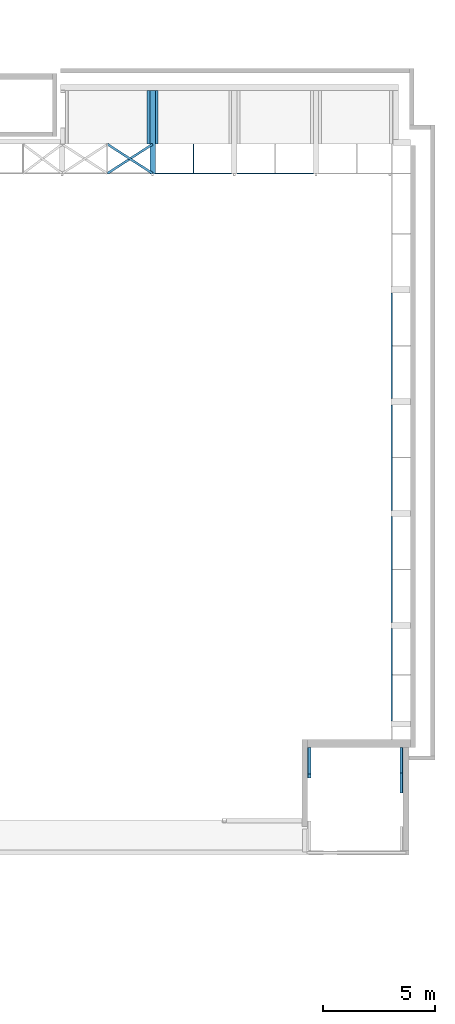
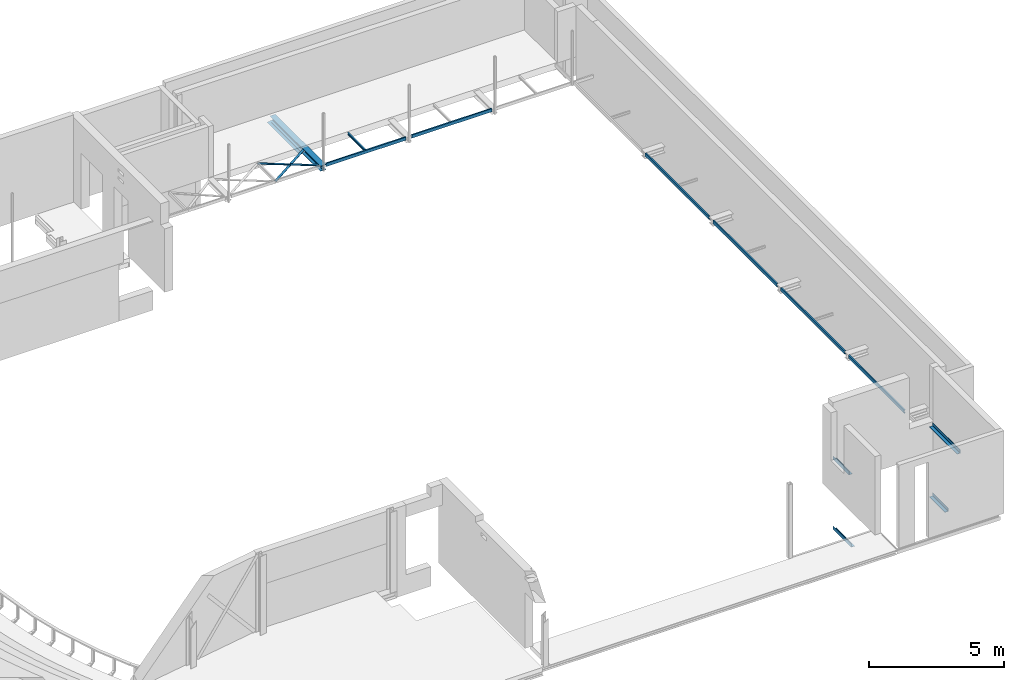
# One storey, part 29 of 68: 14 beams.
"""IFC2X3 building model written with IfcOpenShell, lengths in millimetres."""

from ifc_helpers import new_model, entity, si_unit, converted_unit, derived_unit, direction, frame, frame_2d, origin, place, context, subcontext, project, spatial, polyline, circle_curve, parameter, trimmed, segment, composite_curve, rectangle, i_section, outline, extrude, source, transform, mapped, material, material_list, type_object, type_shapes, element, save


model = new_model("IFC2X3")

# Units and contexts
model_context = context("Model", 3, precision=0.01, world=origin(), true_north=direction((6.12303176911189e-17, 1.0)))
body_context = subcontext(model_context, "Body", "Model", "MODEL_VIEW")
ifc_project = project(units=[si_unit("LENGTHUNIT", "METRE", prefix="MILLI"), si_unit("AREAUNIT", "SQUARE_METRE", prefix="MILLI"), si_unit("VOLUMEUNIT", "CUBIC_METRE"), converted_unit("PLANEANGLEUNIT", "DEGREE", entity("IfcRatioMeasure", 0.0174532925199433), si_unit("PLANEANGLEUNIT", "RADIAN"), dimensions=[0, 0, 0, 0, 0, 0, 0]), si_unit("MASSUNIT", "GRAM", prefix="KILO"), derived_unit("MASSDENSITYUNIT", [(si_unit("MASSUNIT", "GRAM", prefix="KILO"), 1), (si_unit("LENGTHUNIT", "METRE"), -3)]), derived_unit("MOMENTOFINERTIAUNIT", [(si_unit("LENGTHUNIT", "METRE"), 4)]), si_unit("TIMEUNIT", "SECOND"), si_unit("FREQUENCYUNIT", "HERTZ"), si_unit("THERMODYNAMICTEMPERATUREUNIT", "DEGREE_CELSIUS"), derived_unit("THERMALTRANSMITTANCEUNIT", [(si_unit("MASSUNIT", "GRAM", prefix="KILO"), 1), (si_unit("THERMODYNAMICTEMPERATUREUNIT", "KELVIN"), -1), (si_unit("TIMEUNIT", "SECOND"), -3)]), derived_unit("VOLUMETRICFLOWRATEUNIT", [(si_unit("LENGTHUNIT", "METRE"), 3), (si_unit("TIMEUNIT", "SECOND"), -1)]), si_unit("ELECTRICCURRENTUNIT", "AMPERE"), si_unit("ELECTRICVOLTAGEUNIT", "VOLT"), si_unit("POWERUNIT", "WATT"), si_unit("FORCEUNIT", "NEWTON", prefix="KILO"), si_unit("ILLUMINANCEUNIT", "LUX"), si_unit("LUMINOUSFLUXUNIT", "LUMEN"), si_unit("LUMINOUSINTENSITYUNIT", "CANDELA"), derived_unit("USERDEFINED", [(si_unit("MASSUNIT", "GRAM", prefix="KILO"), -1), (si_unit("LENGTHUNIT", "METRE"), -2), (si_unit("TIMEUNIT", "SECOND"), 3), (si_unit("LUMINOUSFLUXUNIT", "LUMEN"), 1)]), derived_unit("LINEARVELOCITYUNIT", [(si_unit("LENGTHUNIT", "METRE"), 1), (si_unit("TIMEUNIT", "SECOND"), -1)]), si_unit("PRESSUREUNIT", "PASCAL"), derived_unit("USERDEFINED", [(si_unit("LENGTHUNIT", "METRE"), -2), (si_unit("MASSUNIT", "GRAM", prefix="KILO"), 1), (si_unit("TIMEUNIT", "SECOND"), -2)]), derived_unit("LINEARFORCEUNIT", [(si_unit("MASSUNIT", "GRAM", prefix="KILO"), 1), (si_unit("LENGTHUNIT", "METRE"), 1), (si_unit("TIMEUNIT", "SECOND"), -2), (si_unit("LENGTHUNIT", "METRE"), -1)]), derived_unit("PLANARFORCEUNIT", [(si_unit("MASSUNIT", "GRAM", prefix="KILO"), 1), (si_unit("LENGTHUNIT", "METRE"), 1), (si_unit("TIMEUNIT", "SECOND"), -2), (si_unit("LENGTHUNIT", "METRE"), -2)])], contexts=[model_context])

# Site, building, storey
site_placement = place(None, origin())
site = spatial("IfcSite", under=ifc_project, at=site_placement, Name="Theater aan de Parade", CompositionType="ELEMENT")
building_placement = place(site_placement, origin())
building = spatial("IfcBuilding", under=site, at=building_placement, Name="Theater aan de Parade", CompositionType="ELEMENT")
storey_placement = place(building_placement, frame((0.0, 0.0, 8750.0)))
storey = spatial("IfcBuildingStorey", under=building, at=storey_placement, Name="02 tweede verdieping", CompositionType="ELEMENT", Elevation=8750.0)

# Beams
ifc_material_1 = material(Name="00_PBT_MAT_staal_S355")
beam_type_1 = type_object("IfcBeamType", Name="28_PBT_SF_staal_L-profiel:S355_L150x150x15", PredefinedType="NOTDEFINED")
beam_1_placement = place(storey_placement, frame((82542.5084217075, 18097.7073637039, 0.0), z_axis=(0.0, 0.0, 1.0), x_axis=(0.0, 1.0, 0.0)))
element("IfcBeam", 1, at=beam_1_placement, inside=storey, type_object=beam_type_1, material=ifc_material_1, Name="28_PBT_SF_staal_L-profiel:S355_L150x150x15", ObjectType="28_PBT_SF_staal_L-profiel:S355_L150x150x15", context=body_context, shape_type="SweptSolid", body=[
    extrude(outline(composite_curve([segment(polyline([(49.6666666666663, -93.3333333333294), (56.6666666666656, -93.3333333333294)]), True, "CONTINUOUS"), segment(polyline([(56.6666666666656, -93.3333333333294), (56.6666666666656, 56.6666666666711)]), True, "CONTINUOUS"), segment(polyline([(56.6666666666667, 56.6666666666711), (-93.3333333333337, 56.6666666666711)]), True, "CONTINUOUS"), segment(polyline([(-93.3333333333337, 56.6666666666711), (-93.3333333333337, 49.6666666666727)]), True, "CONTINUOUS"), segment(trimmed(circle_curve(frame_2d((-85.3333333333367, 49.6666666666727), x_axis=(-1.0, 0.0)), 7.9999999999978), [parameter(0.0)], [parameter(90.0000000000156)], True, "PARAMETER"), True, "CONTINUOUS"), segment(polyline([(-85.3333333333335, 41.6666666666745), (25.6666666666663, 41.6666666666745)]), True, "CONTINUOUS"), segment(trimmed(circle_curve(frame_2d((25.6666666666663, 25.6666666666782), x_axis=(0.0, 1.0)), 15.9999999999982), [parameter(270.0)], [parameter(0.0)], True, "PARAMETER"), False, "CONTINUOUS"), segment(polyline([(41.6666666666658, 25.6666666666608), (41.6666666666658, -85.3333333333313)]), True, "CONTINUOUS"), segment(trimmed(circle_curve(frame_2d((49.666666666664, -85.3333333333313), x_axis=(-1.0, 0.0)), 7.99999999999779), [parameter(0.0)], [parameter(90.0000000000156)], True, "PARAMETER"), True, "CONTINUOUS")], self_intersect=False)), frame((0.0, -14.1666666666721, -1983.33333333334), z_axis=(1.0, 0.0, 0.0), x_axis=(0.0, 0.0, -1.0)), (0.0, 0.0, 1.0), 1362.29287982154),
])
beam_2_placement = place(storey_placement, frame((86723.499999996, 18310.0, 0.0), z_axis=(0.0, 0.0, 1.0), x_axis=(0.0, 1.0, 0.0)))
element("IfcBeam", 2, at=beam_2_placement, inside=storey, type_object=beam_type_1, material=ifc_material_1, Name="28_PBT_SF_staal_L-profiel:S355_L150x150x15", ObjectType="28_PBT_SF_staal_L-profiel:S355_L150x150x15", context=body_context, shape_type="SweptSolid", body=[
    extrude(outline(composite_curve([segment(polyline([(-93.3333333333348, -56.6666666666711), (56.6666666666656, -56.6666666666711)]), True, "CONTINUOUS"), segment(polyline([(56.6666666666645, -56.6666666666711), (56.6666666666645, 93.3333333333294)]), True, "CONTINUOUS"), segment(polyline([(56.6666666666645, 93.3333333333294), (49.6666666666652, 93.3333333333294)]), True, "CONTINUOUS"), segment(trimmed(circle_curve(frame_2d((49.6666666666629, 85.3333333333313), x_axis=(0.0, 1.0)), 7.99999999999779), [parameter(0.0)], [parameter(90.0000000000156)], True, "PARAMETER"), True, "CONTINUOUS"), segment(polyline([(41.6666666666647, 85.3333333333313), (41.6666666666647, -25.6666666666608)]), True, "CONTINUOUS"), segment(trimmed(circle_curve(frame_2d((25.6666666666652, -25.6666666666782), x_axis=(1.0, 0.0)), 15.9999999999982), [parameter(270.0)], [parameter(0.0)], True, "PARAMETER"), False, "CONTINUOUS"), segment(polyline([(25.6666666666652, -41.6666666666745), (-85.3333333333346, -41.6666666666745)]), True, "CONTINUOUS"), segment(trimmed(circle_curve(frame_2d((-85.3333333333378, -49.6666666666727), x_axis=(0.0, 1.0)), 7.9999999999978), [parameter(0.0)], [parameter(90.0000000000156)], True, "PARAMETER"), True, "CONTINUOUS"), segment(polyline([(-93.3333333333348, -49.6666666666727), (-93.3333333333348, -56.6666666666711)]), True, "CONTINUOUS")], self_intersect=False)), frame((0.0, 14.1666666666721, -1983.33333333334), z_axis=(1.0, 0.0, 0.0), x_axis=(0.0, 0.0, -1.0)), (0.0, 0.0, 1.0), 1150.00021871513),
])
beam_3_placement = place(storey_placement, frame((82542.5084217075, 18267.70736962, 0.0), z_axis=(0.0, 0.0, 1.0), x_axis=(0.0, 1.0, 0.0)))
element("IfcBeam", 3, at=beam_3_placement, inside=storey, type_object=beam_type_1, material=ifc_material_1, Name="28_PBT_SF_staal_L-profiel:S355_L150x150x15", ObjectType="28_PBT_SF_staal_L-profiel:S355_L150x150x15", context=body_context, shape_type="SweptSolid", body=[
    extrude(outline(composite_curve([segment(polyline([(49.666666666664, -93.3333333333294), (56.6666666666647, -93.3333333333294)]), True, "CONTINUOUS"), segment(polyline([(56.6666666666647, -93.3333333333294), (56.6666666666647, 56.6666666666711)]), True, "CONTINUOUS"), segment(polyline([(56.6666666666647, 56.6666666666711), (-93.333333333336, 56.6666666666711)]), True, "CONTINUOUS"), segment(polyline([(-93.333333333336, 56.6666666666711), (-93.333333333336, 49.6666666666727)]), True, "CONTINUOUS"), segment(trimmed(circle_curve(frame_2d((-85.3333333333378, 49.6666666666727), x_axis=(-1.0, 0.0)), 7.99999999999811), [parameter(0.0)], [parameter(90.0000000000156)], True, "PARAMETER"), True, "CONTINUOUS"), segment(polyline([(-85.3333333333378, 41.6666666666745), (25.6666666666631, 41.6666666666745)]), True, "CONTINUOUS"), segment(trimmed(circle_curve(frame_2d((25.6666666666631, 25.6666666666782), x_axis=(0.0, 1.0)), 15.9999999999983), [parameter(270.0)], [parameter(0.0)], True, "PARAMETER"), False, "CONTINUOUS"), segment(polyline([(41.6666666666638, 25.6666666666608), (41.6666666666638, -85.3333333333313)]), True, "CONTINUOUS"), segment(trimmed(circle_curve(frame_2d((49.666666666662, -85.3333333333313), x_axis=(-1.0, 0.0)), 7.99999999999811), [parameter(0.0)], [parameter(90.0000000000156)], True, "PARAMETER"), True, "CONTINUOUS")], self_intersect=False)), frame((0.0, -14.1666666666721, 1170.66666666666), z_axis=(1.0, 0.0, 0.0), x_axis=(0.0, 0.0, -1.0)), (0.0, 0.0, 1.0), 1192.29287390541),
])
beam_4_placement = place(storey_placement, frame((86723.4999898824, 17427.7073696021, 0.0), z_axis=(0.0, 0.0, 1.0), x_axis=(0.0, 1.0, 0.0)))
element("IfcBeam", 4, at=beam_4_placement, inside=storey, type_object=beam_type_1, material=ifc_material_1, Name="28_PBT_SF_staal_L-profiel:S355_L150x150x15", ObjectType="28_PBT_SF_staal_L-profiel:S355_L150x150x15", context=body_context, shape_type="SweptSolid", body=[
    extrude(outline(composite_curve([segment(polyline([(-93.3333333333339, -56.6666666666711), (56.6666666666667, -56.6666666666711)]), True, "CONTINUOUS"), segment(polyline([(56.6666666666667, -56.6666666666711), (56.6666666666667, 93.3333333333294)]), True, "CONTINUOUS"), segment(polyline([(56.6666666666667, 93.3333333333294), (49.6666666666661, 93.3333333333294)]), True, "CONTINUOUS"), segment(trimmed(circle_curve(frame_2d((49.666666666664, 85.3333333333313), x_axis=(0.0, 1.0)), 7.99999999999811), [parameter(0.0)], [parameter(90.0000000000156)], True, "PARAMETER"), True, "CONTINUOUS"), segment(polyline([(41.6666666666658, 85.3333333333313), (41.6666666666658, -25.6666666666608)]), True, "CONTINUOUS"), segment(trimmed(circle_curve(frame_2d((25.6666666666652, -25.6666666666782), x_axis=(1.0, 0.0)), 15.9999999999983), [parameter(270.0)], [parameter(0.0)], True, "PARAMETER"), False, "CONTINUOUS"), segment(polyline([(25.6666666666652, -41.6666666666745), (-85.3333333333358, -41.6666666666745)]), True, "CONTINUOUS"), segment(trimmed(circle_curve(frame_2d((-85.3333333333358, -49.6666666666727), x_axis=(0.0, 1.0)), 7.99999999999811), [parameter(0.0)], [parameter(90.0000000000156)], True, "PARAMETER"), True, "CONTINUOUS"), segment(polyline([(-93.3333333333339, -49.6666666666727), (-93.3333333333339, -56.6666666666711)]), True, "CONTINUOUS")], self_intersect=False)), frame((0.0, 14.1666666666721, 1170.66666666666), z_axis=(1.0, 0.0, 0.0), x_axis=(0.0, 0.0, -1.0)), (0.0, 0.0, 1.0), 2032.29287392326),
])
beam_type_2 = type_object("IfcBeamType", Name="28_PBT_SF_staal_UNP-profiel:S355_UNP140", PredefinedType="NOTDEFINED")
beam_5_placement = place(storey_placement, frame((75691.2707440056, 45087.4723406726, 0.0)))
element("IfcBeam", 5, at=beam_5_placement, inside=storey, type_object=beam_type_2, material=ifc_material_1, Name="28_PBT_SF_staal_UNP-profiel:S355_UNP140", ObjectType="28_PBT_SF_staal_UNP-profiel:S355_UNP140", context=body_context, shape_type="SweptSolid", body=[
    extrude(outline(composite_curve([segment(polyline([(-70.0, -33.1002123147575), (70.0, -33.1002123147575)]), True, "CONTINUOUS"), segment(polyline([(70.0, -33.1002123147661), (70.0, 26.8997876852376)]), True, "CONTINUOUS"), segment(polyline([(70.0, 26.8997876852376), (67.0159744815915, 26.8997876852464)]), True, "CONTINUOUS"), segment(trimmed(circle_curve(frame_2d((67.0159744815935, 21.8997876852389), x_axis=(0.0, 1.0)), 5.00000000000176), [parameter(0.0)], [parameter(85.4260787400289)], True, "PARAMETER"), True, "CONTINUOUS"), segment(polyline([(62.031898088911, 22.2985137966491), (58.8962038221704, -16.8976645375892)]), True, "CONTINUOUS"), segment(trimmed(circle_curve(frame_2d((48.9280510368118, -16.10021231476), x_axis=(0.996815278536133, -0.079745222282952)), 9.99999999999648), [parameter(274.573921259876)], [parameter(0.0)], True, "PARAMETER"), False, "CONTINUOUS"), segment(polyline([(48.9280510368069, -26.1002123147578), (-48.9280510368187, -26.100212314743)]), True, "CONTINUOUS"), segment(trimmed(circle_curve(frame_2d((-48.9280510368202, -16.100212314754), x_axis=(0.0, -1.0)), 9.99999999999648), [parameter(274.573921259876)], [parameter(0.0)], True, "PARAMETER"), False, "CONTINUOUS"), segment(polyline([(-58.8962038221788, -16.8976645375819), (-62.0318980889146, 22.2985137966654)]), True, "CONTINUOUS"), segment(trimmed(circle_curve(frame_2d((-67.0159744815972, 21.8997876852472), x_axis=(0.996815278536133, 0.0797452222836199)), 5.00000000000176), [parameter(0.0)], [parameter(85.4260787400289)], True, "PARAMETER"), True, "CONTINUOUS"), segment(polyline([(-67.0159744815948, 26.899787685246), (-70.0, 26.8997876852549)]), True, "CONTINUOUS"), segment(polyline([(-70.0, 26.8997876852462), (-70.0, -33.1002123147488)]), True, "CONTINUOUS")], self_intersect=False)), frame((0.0, 15.5002123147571, 1210.0), z_axis=(1.0, 0.0, 0.0), x_axis=(0.0, 0.0, -1.0)), (0.0, 0.0, 1.0), 3409.99999999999),
])
beam_6_placement = place(storey_placement, frame((82751.2707440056, 45087.4723406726, 0.0), z_axis=(0.0, 0.0, 1.0), x_axis=(-1.0, 0.0, 0.0)))
element("IfcBeam", 6, at=beam_6_placement, inside=storey, type_object=beam_type_2, material=ifc_material_1, Name="28_PBT_SF_staal_UNP-profiel:S355_UNP140", ObjectType="28_PBT_SF_staal_UNP-profiel:S355_UNP140", context=body_context, shape_type="SweptSolid", body=[
    extrude(outline(composite_curve([segment(polyline([(67.0159744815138, -26.8997876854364), (70.0, -26.8997876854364)]), True, "CONTINUOUS"), segment(polyline([(70.0, -26.8997876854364), (70.0, 33.1002123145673)]), True, "CONTINUOUS"), segment(polyline([(70.0, 33.1002123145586), (-70.0, 33.1002123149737)]), True, "CONTINUOUS"), segment(polyline([(-70.0, 33.100212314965), (-70.0, -26.89978768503)]), True, "CONTINUOUS"), segment(polyline([(-70.0, -26.8997876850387), (-67.0159744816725, -26.8997876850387)]), True, "CONTINUOUS"), segment(trimmed(circle_curve(frame_2d((-67.01597448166, -21.8997876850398), x_axis=(0.0, -1.0)), 5.00000000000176), [parameter(0.0)], [parameter(85.4260787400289)], True, "PARAMETER"), True, "CONTINUOUS"), segment(polyline([(-62.0318980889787, -22.2985137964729), (-58.8962038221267, 16.8976645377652)]), True, "CONTINUOUS"), segment(trimmed(circle_curve(frame_2d((-48.9280510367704, 16.1002123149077), x_axis=(-0.996815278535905, 0.0797452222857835)), 9.99999999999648), [parameter(274.573921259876)], [parameter(0.0)], True, "PARAMETER"), False, "CONTINUOUS"), segment(polyline([(-48.9280510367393, 26.1002123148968), (48.9280510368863, 26.1002123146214)]), True, "CONTINUOUS"), segment(trimmed(circle_curve(frame_2d((48.9280510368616, 16.1002123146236), x_axis=(0.0, 1.0)), 9.99999999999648), [parameter(274.573921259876)], [parameter(0.0)], True, "PARAMETER"), False, "CONTINUOUS"), segment(polyline([(58.8962038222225, 16.8976645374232), (62.031898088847, -22.2985137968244)]), True, "CONTINUOUS"), segment(trimmed(circle_curve(frame_2d((67.0159744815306, -21.8997876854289), x_axis=(-0.99681527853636, -0.0797452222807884)), 5.00000000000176), [parameter(0.0)], [parameter(85.4260787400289)], True, "PARAMETER"), True, "CONTINUOUS")], self_intersect=False)), frame((0.0, -15.5002123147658, 1210.0), z_axis=(1.0, 0.0, 0.0), x_axis=(0.0, 0.0, -1.0)), (0.0, 0.0, 1.0), 3410.00000000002),
])
beam_7_placement = place(storey_placement, frame((86243.6688810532, 35050.0, 0.0), z_axis=(0.0, 0.0, 1.0), x_axis=(0.0, 1.0, 0.0)))
element("IfcBeam", 7, at=beam_7_placement, inside=storey, type_object=beam_type_2, material=ifc_material_1, Name="28_PBT_SF_staal_UNP-profiel:S355_UNP140", ObjectType="28_PBT_SF_staal_UNP-profiel:S355_UNP140", context=body_context, shape_type="SweptSolid", body=[
    extrude(outline(composite_curve([segment(polyline([(67.0159744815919, -26.8997876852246), (70.0, -26.8997876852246)]), True, "CONTINUOUS"), segment(polyline([(70.0, -26.8997876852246), (70.0, 33.1002123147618)]), True, "CONTINUOUS"), segment(polyline([(70.0, 33.1002123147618), (-70.0, 33.1002123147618)]), True, "CONTINUOUS"), segment(polyline([(-70.0, 33.1002123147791), (-70.0, -26.8997876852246)]), True, "CONTINUOUS"), segment(polyline([(-70.0, -26.8997876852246), (-67.0159744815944, -26.8997876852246)]), True, "CONTINUOUS"), segment(trimmed(circle_curve(frame_2d((-67.0159744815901, -21.8997876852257), x_axis=(0.0, -1.0)), 4.99999999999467), [parameter(0.0)], [parameter(85.4260787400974)], True, "PARAMETER"), True, "CONTINUOUS"), segment(polyline([(-62.031898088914, -22.2985137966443), (-58.8962038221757, 16.8976645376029)]), True, "CONTINUOUS"), segment(trimmed(circle_curve(frame_2d((-48.9280510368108, 16.1002123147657), x_axis=(-0.996815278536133, 0.0797452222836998)), 10.0000000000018), [parameter(274.57392125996)], [parameter(0.0)], True, "PARAMETER"), False, "CONTINUOUS"), segment(polyline([(-48.9280510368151, 26.1002123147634), (48.9280510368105, 26.1002123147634)]), True, "CONTINUOUS"), segment(trimmed(circle_curve(frame_2d((48.9280510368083, 16.1002123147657), x_axis=(0.0, 1.0)), 10.0000000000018), [parameter(274.57392125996)], [parameter(0.0)], True, "PARAMETER"), False, "CONTINUOUS"), segment(polyline([(58.8962038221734, 16.8976645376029), (62.0318980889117, -22.2985137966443)]), True, "CONTINUOUS"), segment(trimmed(circle_curve(frame_2d((67.0159744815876, -21.8997876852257), x_axis=(-0.996815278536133, -0.0797452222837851)), 4.99999999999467), [parameter(0.0)], [parameter(85.4260787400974)], True, "PARAMETER"), True, "CONTINUOUS")], self_intersect=False)), frame((0.0, -15.5002123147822, 1210.0), z_axis=(1.0, 0.0, 0.0), x_axis=(0.0, 0.0, -1.0)), (0.0, 0.0, 1.0), 4720.0),
])
beam_8_placement = place(storey_placement, frame((86243.6688810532, 30050.0, 0.0), z_axis=(0.0, 0.0, 1.0), x_axis=(0.0, 1.0, 0.0)))
element("IfcBeam", 8, at=beam_8_placement, inside=storey, type_object=beam_type_2, material=ifc_material_1, Name="28_PBT_SF_staal_UNP-profiel:S355_UNP140", ObjectType="28_PBT_SF_staal_UNP-profiel:S355_UNP140", context=body_context, shape_type="SweptSolid", body=[
    extrude(outline(composite_curve([segment(polyline([(67.0159744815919, -26.8997876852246), (70.0, -26.8997876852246)]), True, "CONTINUOUS"), segment(polyline([(70.0, -26.8997876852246), (70.0, 33.1002123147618)]), True, "CONTINUOUS"), segment(polyline([(70.0, 33.1002123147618), (-70.0, 33.1002123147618)]), True, "CONTINUOUS"), segment(polyline([(-70.0, 33.1002123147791), (-70.0, -26.8997876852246)]), True, "CONTINUOUS"), segment(polyline([(-70.0, -26.8997876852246), (-67.0159744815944, -26.8997876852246)]), True, "CONTINUOUS"), segment(trimmed(circle_curve(frame_2d((-67.0159744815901, -21.8997876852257), x_axis=(0.0, -1.0)), 4.99999999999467), [parameter(0.0)], [parameter(85.4260787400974)], True, "PARAMETER"), True, "CONTINUOUS"), segment(polyline([(-62.031898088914, -22.2985137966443), (-58.8962038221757, 16.8976645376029)]), True, "CONTINUOUS"), segment(trimmed(circle_curve(frame_2d((-48.9280510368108, 16.1002123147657), x_axis=(-0.996815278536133, 0.0797452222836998)), 10.0000000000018), [parameter(274.57392125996)], [parameter(0.0)], True, "PARAMETER"), False, "CONTINUOUS"), segment(polyline([(-48.9280510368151, 26.1002123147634), (48.9280510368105, 26.1002123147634)]), True, "CONTINUOUS"), segment(trimmed(circle_curve(frame_2d((48.9280510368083, 16.1002123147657), x_axis=(0.0, 1.0)), 10.0000000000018), [parameter(274.57392125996)], [parameter(0.0)], True, "PARAMETER"), False, "CONTINUOUS"), segment(polyline([(58.8962038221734, 16.8976645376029), (62.0318980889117, -22.2985137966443)]), True, "CONTINUOUS"), segment(trimmed(circle_curve(frame_2d((67.0159744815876, -21.8997876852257), x_axis=(-0.996815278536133, -0.0797452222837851)), 4.99999999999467), [parameter(0.0)], [parameter(85.4260787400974)], True, "PARAMETER"), True, "CONTINUOUS")], self_intersect=False)), frame((0.0, -15.5002123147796, 1210.0), z_axis=(1.0, 0.0, 0.0), x_axis=(0.0, 0.0, -1.0)), (0.0, 0.0, 1.0), 4720.0),
])
beam_9_placement = place(storey_placement, frame((86243.6688810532, 25050.0, 0.0), z_axis=(0.0, 0.0, 1.0), x_axis=(0.0, 1.0, 0.0)))
element("IfcBeam", 9, at=beam_9_placement, inside=storey, type_object=beam_type_2, material=ifc_material_1, Name="28_PBT_SF_staal_UNP-profiel:S355_UNP140", ObjectType="28_PBT_SF_staal_UNP-profiel:S355_UNP140", context=body_context, shape_type="SweptSolid", body=[
    extrude(outline(composite_curve([segment(polyline([(67.0159744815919, -26.8997876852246), (70.0, -26.8997876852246)]), True, "CONTINUOUS"), segment(polyline([(70.0, -26.8997876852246), (70.0, 33.1002123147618)]), True, "CONTINUOUS"), segment(polyline([(70.0, 33.1002123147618), (-70.0, 33.1002123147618)]), True, "CONTINUOUS"), segment(polyline([(-70.0, 33.1002123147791), (-70.0, -26.8997876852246)]), True, "CONTINUOUS"), segment(polyline([(-70.0, -26.8997876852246), (-67.0159744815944, -26.8997876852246)]), True, "CONTINUOUS"), segment(trimmed(circle_curve(frame_2d((-67.0159744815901, -21.8997876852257), x_axis=(0.0, -1.0)), 4.99999999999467), [parameter(0.0)], [parameter(85.4260787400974)], True, "PARAMETER"), True, "CONTINUOUS"), segment(polyline([(-62.031898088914, -22.2985137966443), (-58.8962038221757, 16.8976645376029)]), True, "CONTINUOUS"), segment(trimmed(circle_curve(frame_2d((-48.9280510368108, 16.1002123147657), x_axis=(-0.996815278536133, 0.0797452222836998)), 10.0000000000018), [parameter(274.57392125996)], [parameter(0.0)], True, "PARAMETER"), False, "CONTINUOUS"), segment(polyline([(-48.9280510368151, 26.1002123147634), (48.9280510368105, 26.1002123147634)]), True, "CONTINUOUS"), segment(trimmed(circle_curve(frame_2d((48.9280510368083, 16.1002123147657), x_axis=(0.0, 1.0)), 10.0000000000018), [parameter(274.57392125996)], [parameter(0.0)], True, "PARAMETER"), False, "CONTINUOUS"), segment(polyline([(58.8962038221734, 16.8976645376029), (62.0318980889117, -22.2985137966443)]), True, "CONTINUOUS"), segment(trimmed(circle_curve(frame_2d((67.0159744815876, -21.8997876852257), x_axis=(-0.996815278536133, -0.0797452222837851)), 4.99999999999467), [parameter(0.0)], [parameter(85.4260787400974)], True, "PARAMETER"), True, "CONTINUOUS")], self_intersect=False)), frame((0.0, -15.5002123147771, 1210.0), z_axis=(1.0, 0.0, 0.0), x_axis=(0.0, 0.0, -1.0)), (0.0, 0.0, 1.0), 4720.0),
])
beam_10_placement = place(storey_placement, frame((86243.6688810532, 20650.0, 0.0), z_axis=(0.0, 0.0, 1.0), x_axis=(0.0, 1.0, 0.0)))
element("IfcBeam", 10, at=beam_10_placement, inside=storey, type_object=beam_type_2, material=ifc_material_1, Name="28_PBT_SF_staal_UNP-profiel:S355_UNP140", ObjectType="28_PBT_SF_staal_UNP-profiel:S355_UNP140", context=body_context, shape_type="SweptSolid", body=[
    extrude(outline(composite_curve([segment(polyline([(67.0159744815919, -26.8997876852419), (70.0, -26.8997876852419)]), True, "CONTINUOUS"), segment(polyline([(70.0, -26.8997876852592), (70.0, 33.1002123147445)]), True, "CONTINUOUS"), segment(polyline([(70.0, 33.1002123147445), (-70.0, 33.1002123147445)]), True, "CONTINUOUS"), segment(polyline([(-70.0, 33.1002123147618), (-70.0, -26.8997876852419)]), True, "CONTINUOUS"), segment(polyline([(-70.0, -26.8997876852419), (-67.0159744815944, -26.8997876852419)]), True, "CONTINUOUS"), segment(trimmed(circle_curve(frame_2d((-67.0159744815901, -21.899787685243), x_axis=(0.0, -1.0)), 4.99999999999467), [parameter(0.0)], [parameter(85.4260787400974)], True, "PARAMETER"), True, "CONTINUOUS"), segment(polyline([(-62.031898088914, -22.2985137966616), (-58.8962038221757, 16.8976645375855)]), True, "CONTINUOUS"), segment(trimmed(circle_curve(frame_2d((-48.9280510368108, 16.1002123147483), x_axis=(-0.996815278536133, 0.0797452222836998)), 10.0000000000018), [parameter(274.57392125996)], [parameter(0.0)], True, "PARAMETER"), False, "CONTINUOUS"), segment(polyline([(-48.9280510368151, 26.1002123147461), (48.9280510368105, 26.1002123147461)]), True, "CONTINUOUS"), segment(trimmed(circle_curve(frame_2d((48.9280510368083, 16.1002123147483), x_axis=(0.0, 1.0)), 10.0000000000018), [parameter(274.57392125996)], [parameter(0.0)], True, "PARAMETER"), False, "CONTINUOUS"), segment(polyline([(58.8962038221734, 16.8976645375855), (62.0318980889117, -22.2985137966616)]), True, "CONTINUOUS"), segment(trimmed(circle_curve(frame_2d((67.0159744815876, -21.899787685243), x_axis=(-0.996815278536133, -0.0797452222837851)), 4.99999999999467), [parameter(0.0)], [parameter(85.4260787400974)], True, "PARAMETER"), True, "CONTINUOUS")], self_intersect=False)), frame((0.0, -15.500212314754, 1210.0), z_axis=(1.0, 0.0, 0.0), x_axis=(0.0, 0.0, -1.0)), (0.0, 0.0, 1.0), 4120.00000000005),
])
ifc_material_2 = material(Name="00_PBT_MAT_Lucht")
ifc_material_list = material_list([ifc_material_2, ifc_material_1])
beam_type_3 = type_object("IfcBeamType", Name="28_PBT_SF_staal_H-profiel_met_onderplaat (void):S355_HE240A + onderplaat", PredefinedType="BEAM", material=ifc_material_list)
shared_shape = source(origin(), body_context, "Body", "SweptSolid", [
    extrude(i_section(OverallWidth=239.999999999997, OverallDepth=230.0, WebThickness=7.49999999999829, FlangeThickness=11.9999999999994, FilletRadius=21.0000000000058, at=frame_2d((8.66151594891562e-12, 0.0), x_axis=(1.0, 0.0))), frame((75571.2707440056, 48807.0, 9875.0), z_axis=(0.0, -1.0, 0.0), x_axis=(-1.0, 0.0, 0.0)), (0.0, 0.0, 1.0), 3737.12765932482),
    extrude(rectangle(XDim=9.99999999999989, YDim=490.000000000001, at=frame_2d((-4.33431068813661e-12, -1.08268949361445e-12), x_axis=(0.0, 1.0))), frame((75571.2707440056, 48807.0, 9755.0), z_axis=(0.0, -1.0, 0.0), x_axis=(-1.0, 0.0, 0.0)), (0.0, 0.0, 1.0), 2395.12765932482),
])
type_shapes(beam_type_3, [shared_shape])
beam_11_placement = place(storey_placement, frame((0.0, 0.0, -8750.0)))
element("IfcBeam", 11, at=beam_11_placement, inside=storey, type_object=beam_type_3, material=ifc_material_1, Name="28_PBT_SF_staal_H-profiel_met_onderplaat (void):S355_HE240A + onderplaat", ObjectType="28_PBT_SF_staal_H-profiel_met_onderplaat (void):S355_HE240A + onderplaat", context=body_context, shape_type="MappedRepresentation", body=[
    mapped(shared_shape, transform((0.0, 0.0, 0.0), scale=1.0)),
])
ifc_material_3 = material(Name="00_PBT_MAT_staal")
beam_type_4 = type_object("IfcBeamType", Name="28_PBT_SF_staal_strip:strip 100x10", PredefinedType="NOTDEFINED")
beam_12_placement = place(storey_placement, frame((75571.2707440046, 46411.8723406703, 0.0), z_axis=(0.0, 0.0, 1.0), x_axis=(-0.839581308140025, -0.543234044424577, 0.0)))
element("IfcBeam", 12, at=beam_12_placement, inside=storey, type_object=beam_type_4, material=ifc_material_3, Name="28_PBT_SF_staal_strip:strip 100x10", ObjectType="28_PBT_SF_staal_strip:strip 100x10", context=body_context, shape_type="SweptSolid", body=[
    extrude(rectangle(XDim=9.99999999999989, YDim=100.000000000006, at=frame_2d((1.08268949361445e-12, 0.0), x_axis=(1.0, 0.0))), frame((0.0, 0.0, 1215.0), z_axis=(1.0, 0.0, 0.0), x_axis=(0.0, 0.0, -1.0)), (0.0, 0.0, 1.0), 2405.96113850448),
])
beam_13_placement = place(storey_placement, frame((73551.2707440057, 46411.8723406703, 0.0), z_axis=(0.0, 0.0, 1.0), x_axis=(0.839581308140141, -0.543234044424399, 0.0)))
element("IfcBeam", 13, at=beam_13_placement, inside=storey, type_object=beam_type_4, material=ifc_material_3, Name="28_PBT_SF_staal_strip:strip 100x10", ObjectType="28_PBT_SF_staal_strip:strip 100x10", context=body_context, shape_type="SweptSolid", body=[
    extrude(rectangle(XDim=9.99999999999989, YDim=99.9999999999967, at=frame_2d((1.08268949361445e-12, -2.35189645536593e-12), x_axis=(1.0, 0.0))), frame((0.0, 0.0, 1225.0), z_axis=(1.0, 0.0, 0.0), x_axis=(0.0, 0.0, -1.0)), (0.0, 0.0, 1.0), 2405.96113850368),
])
beam_type_5 = type_object("IfcBeamType", Name="28_PBT_SF_staal_IPE-profiel:S355_IPE100", PredefinedType="NOTDEFINED")
beam_14_placement = place(storey_placement, frame((77396.2707440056, 46411.8723406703, 0.0), z_axis=(0.0, 0.0, 1.0), x_axis=(0.0, -1.0, 0.0)))
element("IfcBeam", 14, at=beam_14_placement, inside=storey, type_object=beam_type_5, material=ifc_material_1, Name="28_PBT_SF_staal_IPE-profiel:S355_IPE100", ObjectType="28_PBT_SF_staal_IPE-profiel:S355_IPE100", context=body_context, shape_type="SweptSolid", body=[
    extrude(outline(composite_curve([segment(polyline([(44.3000000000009, -27.5000000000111), (50.0, -27.5000000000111)]), True, "CONTINUOUS"), segment(polyline([(50.0, -27.5000000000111), (50.0, 27.4999999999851)]), True, "CONTINUOUS"), segment(polyline([(50.0, 27.4999999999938), (44.3000000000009, 27.4999999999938)]), True, "CONTINUOUS"), segment(polyline([(44.3000000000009, 27.4999999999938), (44.3000000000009, 9.04999999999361)]), True, "CONTINUOUS"), segment(trimmed(circle_curve(frame_2d((37.3000000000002, 9.04999999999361), x_axis=(1.0, 0.0)), 7.00000000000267), [parameter(270.000000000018)], [parameter(0.0)], True, "PARAMETER"), False, "CONTINUOUS"), segment(polyline([(37.3000000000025, 2.04999999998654), (-37.2999999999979, 2.04999999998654)]), True, "CONTINUOUS"), segment(trimmed(circle_curve(frame_2d((-37.2999999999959, 9.04999999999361), x_axis=(0.0, -1.0)), 7.00000000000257), [parameter(270.000000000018)], [parameter(0.0)], True, "PARAMETER"), False, "CONTINUOUS"), segment(polyline([(-44.2999999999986, 9.04999999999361), (-44.2999999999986, 27.4999999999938)]), True, "CONTINUOUS"), segment(polyline([(-44.2999999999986, 27.4999999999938), (-50.0, 27.4999999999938)]), True, "CONTINUOUS"), segment(polyline([(-50.0, 27.4999999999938), (-50.0, -27.5000000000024)]), True, "CONTINUOUS"), segment(polyline([(-50.0, -27.5000000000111), (-44.2999999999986, -27.5000000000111)]), True, "CONTINUOUS"), segment(polyline([(-44.3000000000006, -27.5000000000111), (-44.3000000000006, -9.05000000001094)]), True, "CONTINUOUS"), segment(trimmed(circle_curve(frame_2d((-37.2999999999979, -9.05000000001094), x_axis=(-1.0, 0.0)), 7.00000000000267), [parameter(270.000000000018)], [parameter(0.0)], True, "PARAMETER"), False, "CONTINUOUS"), segment(polyline([(-37.3000000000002, -2.05000000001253), (37.3000000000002, -2.05000000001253)]), True, "CONTINUOUS"), segment(trimmed(circle_curve(frame_2d((37.2999999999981, -9.05000000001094), x_axis=(0.0, 1.0)), 7.00000000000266), [parameter(270.000000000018)], [parameter(0.0)], True, "PARAMETER"), False, "CONTINUOUS"), segment(polyline([(44.3000000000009, -9.05000000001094), (44.3000000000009, -27.5000000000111)]), True, "CONTINUOUS")], self_intersect=False)), frame((0.0, 0.0, 1230.0), z_axis=(1.0, 0.0, 0.0), x_axis=(0.0, 0.0, -1.0)), (0.0, 0.0, 1.0), 1281.99999999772),
])

save(model, "model.ifc")
